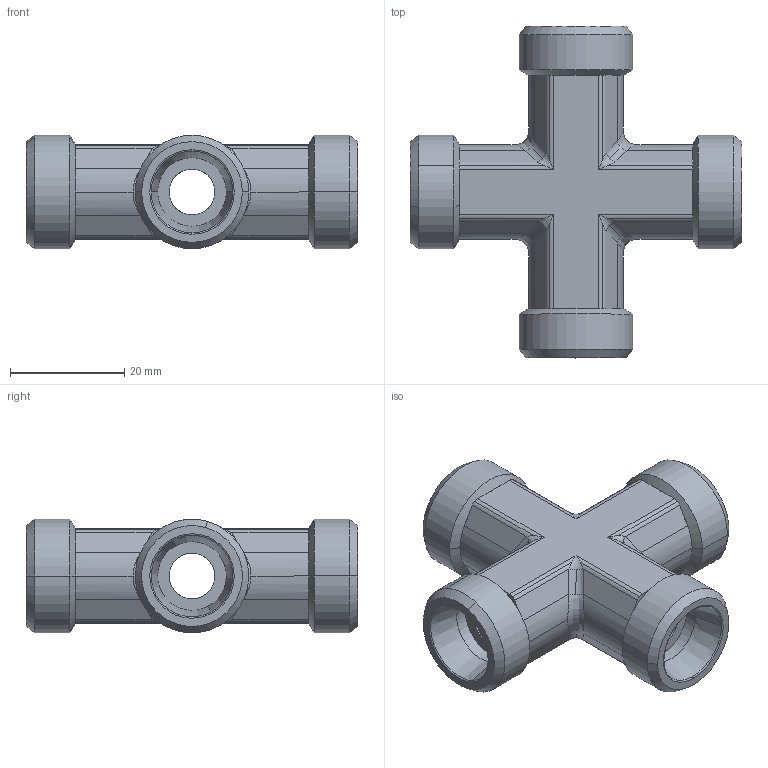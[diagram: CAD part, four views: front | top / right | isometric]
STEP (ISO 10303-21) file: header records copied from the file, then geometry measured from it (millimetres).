
FILE_DESCRIPTION((''),'2;1');
FILE_NAME('104017.stp','2007-10-31T13:14:32',(''),(''),'AutoCAD STEP 2000i','AutoCAD 2000i',', , ');
FILE_SCHEMA(('CONFIG_CONTROL_DESIGN'));
Length unit declared in the file: millimetre
Products named in the file (2): 104017.0; 3093#0
Assembly tree (1 placements, depth 2):
  104017.0
    3093#0
Bounding box: 58 x 58 x 19.85 mm (x, y, z)
Volume: 17906.9 mm3; surface area: 9452.2 mm2
Topology: 1 solids, 1 shells, 174 faces, 428 edges, 250 vertices
Faces by surface type: cylinder 88, plane 42, cone 24, bspline 20
Entity records: 6669 total; most frequent: CARTESIAN_POINT 2374, DIRECTION 976, ORIENTED_EDGE 840, EDGE_CURVE 420, AXIS2_PLACEMENT_3D 400, VERTEX_POINT 250, CIRCLE 186, EDGE_LOOP 182
